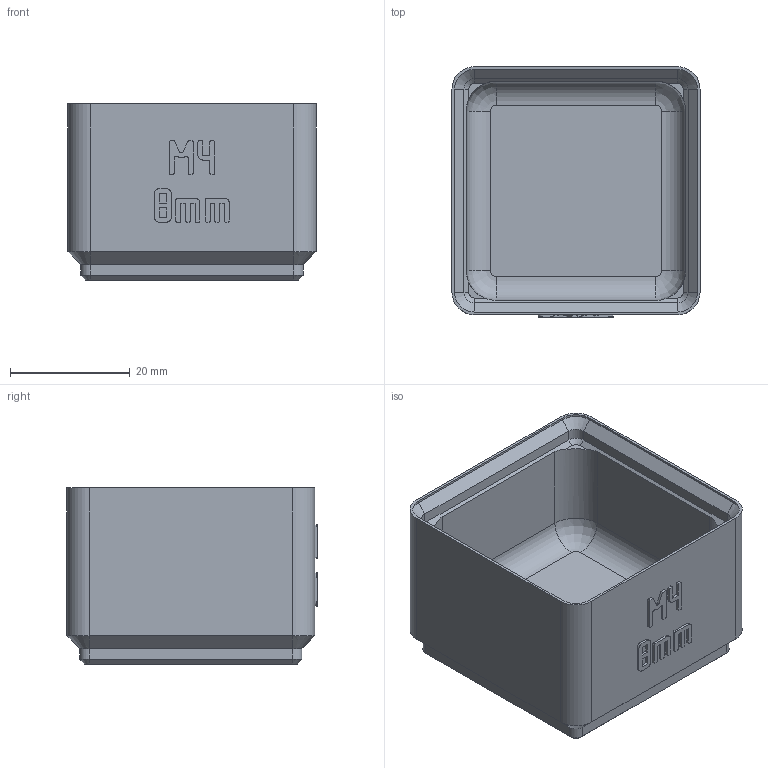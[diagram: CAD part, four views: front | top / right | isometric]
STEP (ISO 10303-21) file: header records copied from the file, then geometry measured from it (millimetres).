
FILE_DESCRIPTION(('Open CASCADE Model'),'2;1');
FILE_NAME('Open CASCADE Shape Model','2026-11-03T10:23:34',('Author'),( 'Open CASCADE'),'Open CASCADE STEP processor 8.0','build123d', 'Unknown');
FILE_SCHEMA(('AUTOMOTIVE_DESIGN { 1 0 10303 214 1 1 1 1 }'));
Length unit declared in the file: millimetre
Products named in the file (1): COMPOUND
Bounding box: 41.5 x 41.9 x 29.5 mm (x, y, z)
Volume: 18937.1 mm3; surface area: 10638.5 mm2
Topology: 1 solids, 1 shells, 528 faces, 1498 edges, 980 vertices
Faces by surface type: plane 484, cylinder 24, cone 16, revolution 4
Entity records: 35290 total; most frequent: CARTESIAN_POINT 7227, DIRECTION 4532, LINE 3322, VECTOR 3322, ORIENTED_EDGE 2996, PCURVE 2996, DEFINITIONAL_REPRESENTATION 2996, EDGE_CURVE 1498
